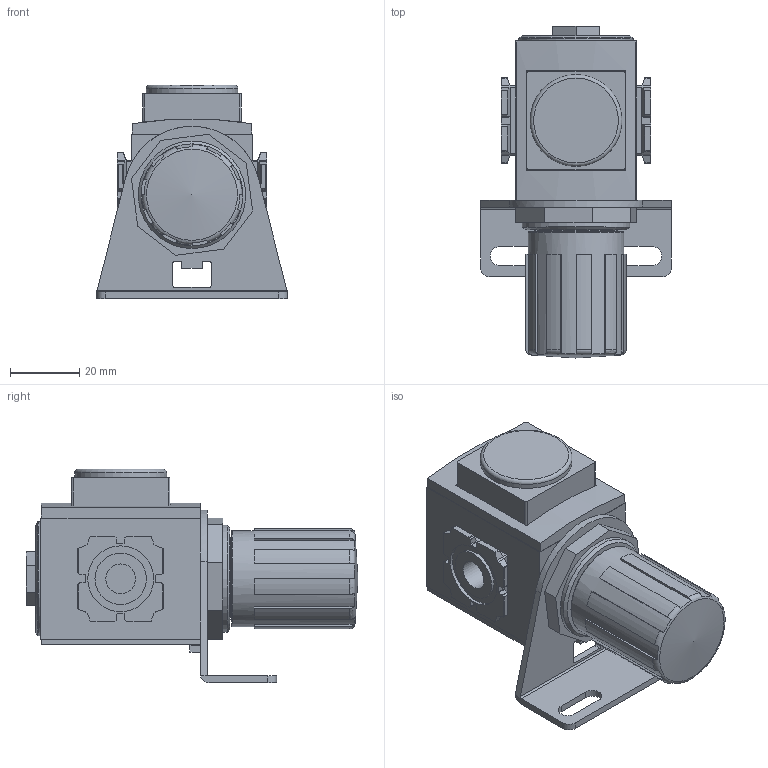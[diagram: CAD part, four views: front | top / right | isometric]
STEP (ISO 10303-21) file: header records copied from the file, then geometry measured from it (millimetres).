
FILE_DESCRIPTION( ( 'STEP AP214' ), '1' );
FILE_NAME( 'C:/Users/emc03072/Desktop/EAR/EAR2000-01F1.stp', '2026-07-30T13:19:29', ( 'License CC BY-ND 4.0' ), ( 'CADENAS' ), ' ', 'PARTsolutions', ' ' );
FILE_SCHEMA( ( 'AUTOMOTIVE_DESIGN { 1 0 10303 214 1 1 1 1 }' ) );
Length unit declared in the file: millimetre
Products named in the file (2): EAR2000-01F1; _EAR2000-01F1-body
Assembly tree (1 placements, depth 2):
  EAR2000-01F1
    _EAR2000-01F1-body
Bounding box: 55 x 95.77 x 61.6 mm (x, y, z)
Volume: 110427.8 mm3; surface area: 22170.1 mm2
Topology: 1 solids, 1 shells, 339 faces, 930 edges, 612 vertices
Faces by surface type: plane 279, cylinder 49, torus 7, cone 3, sphere 1
Full cylindrical faces by diameter (mm): 8.566 x2, 14.8 x2, 19 x2, 23.7 x1, 26.5 x1, 27.64 x1, 31 x1
Entity records: 13301 total; most frequent: CARTESIAN_POINT 1858, ORIENTED_EDGE 1812, DIRECTION 1759, EDGE_CURVE 906, LINE 735, VECTOR 735, VERTEX_POINT 611, AXIS2_PLACEMENT_3D 512
